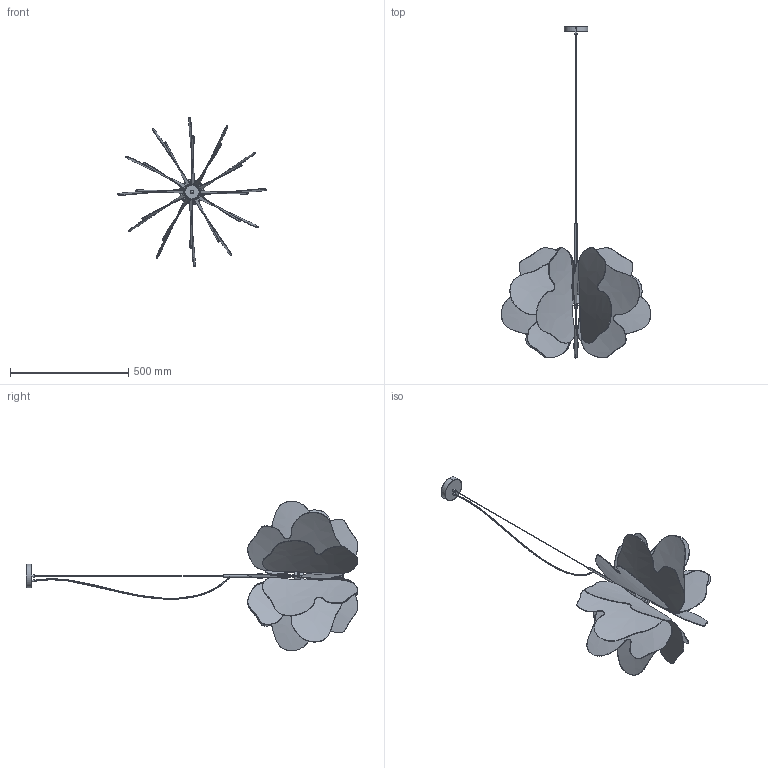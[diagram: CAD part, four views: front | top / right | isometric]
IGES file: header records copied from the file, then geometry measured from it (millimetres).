
Start section: SolidWorks IGES file using analytic representation for surfaces
Global section: file name: F:\燠隴矨\3D\11堎\Nightbloom Pendant Lamp.IGS; native system: SolidWorks 2022; preprocessor: SolidWorks 2022; author: MyPC; date: 231113.112118; units: millimetre
Bounding box: 633.04 x 1405.77 x 633.04 mm (x, y, z)
Surface area: 2099162.3 mm2 (no closed solid volume)
Topology: 0 solids, 0 shells, 147 faces, 7648 edges, 7646 vertices
Faces by surface type: bspline 95, revolution 52
